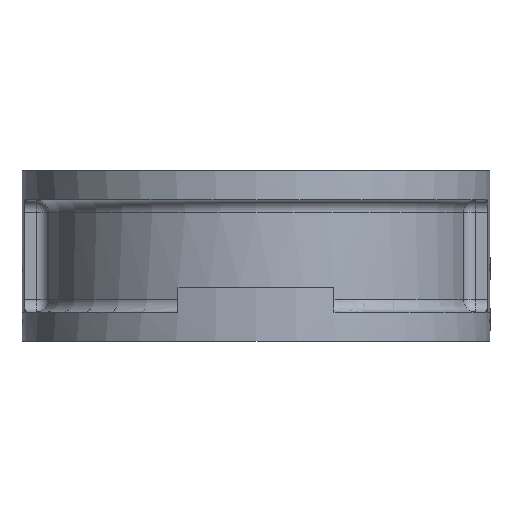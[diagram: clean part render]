
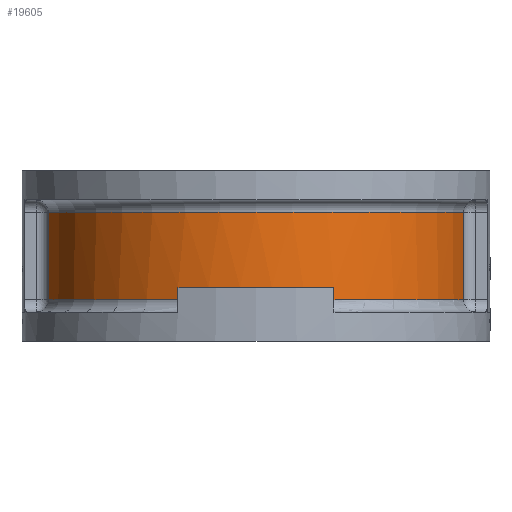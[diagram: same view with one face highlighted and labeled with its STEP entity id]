
A CAD part, front view. The second image highlights one B-rep face of the part: STEP entity #19605.
In plain terms, the highlighted cylindrical face has radius 87 mm (diameter 174 mm), a partial arc.
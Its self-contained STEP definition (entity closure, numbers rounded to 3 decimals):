
#2720=CARTESIAN_POINT('',(0.,0.,-17.));
#2721=DIRECTION('',(0.,0.,-1.));
#2722=DIRECTION('',(0.978,-0.207,0.));
#2723=AXIS2_PLACEMENT_3D('',#2720,#2721,#2722);
#7325=CARTESIAN_POINT('',(0.,0.,-53.));
#7326=DIRECTION('',(0.,0.,1.));
#7327=DIRECTION('',(-0.978,-0.207,0.));
#7328=AXIS2_PLACEMENT_3D('',#7325,#7326,#7327);
#7342=CARTESIAN_POINT('',(0.,0.,-53.));
#7343=DIRECTION('',(0.,0.,1.));
#7344=DIRECTION('',(0.368,-0.93,0.));
#7345=AXIS2_PLACEMENT_3D('',#7342,#7343,#7344);
#7393=DIRECTION('',(0.,0.,1.));
#7394=VECTOR('',#7393,5.);
#7395=CARTESIAN_POINT('',(-32.,-80.901,-53.));
#7396=LINE('',#7395,#7394);
#7397=DIRECTION('',(0.,0.,1.));
#7398=VECTOR('',#7397,36.);
#7399=CARTESIAN_POINT('',(-85.124,-17.967,
-53.));
#7400=LINE('',#7399,#7398);
#7401=DIRECTION('',(0.,0.,-1.));
#7402=VECTOR('',#7401,36.);
#7403=CARTESIAN_POINT('',(85.124,-17.967,
-17.));
#7404=LINE('',#7403,#7402);
#7405=DIRECTION('',(0.,0.,1.));
#7406=VECTOR('',#7405,5.);
#7407=CARTESIAN_POINT('',(32.,-80.901,-53.));
#7408=LINE('',#7407,#7406);
#7431=CARTESIAN_POINT('',(0.,0.,-48.));
#7432=DIRECTION('',(0.,0.,1.));
#7433=DIRECTION('',(-0.368,-0.93,0.));
#7434=AXIS2_PLACEMENT_3D('',#7431,#7432,#7433);
#8741=CARTESIAN_POINT('',(-85.124,-17.967,-17.));
#8742=VERTEX_POINT('',#8741);
#8743=CARTESIAN_POINT('',(-85.124,-17.967,
-53.));
#8744=VERTEX_POINT('',#8743);
#8805=CARTESIAN_POINT('',(85.124,-17.967,-53.));
#8806=VERTEX_POINT('',#8805);
#8807=CARTESIAN_POINT('',(85.124,-17.967,
-17.));
#8808=VERTEX_POINT('',#8807);
#9750=CARTESIAN_POINT('',(-32.,-80.901,-53.));
#9751=CARTESIAN_POINT('',(-32.,-80.901,-48.));
#9752=VERTEX_POINT('',#9750);
#9753=VERTEX_POINT('',#9751);
#9754=CARTESIAN_POINT('',(32.,-80.901,-53.));
#9755=CARTESIAN_POINT('',(32.,-80.901,-48.));
#9756=VERTEX_POINT('',#9754);
#9757=VERTEX_POINT('',#9755);
#19587=CARTESIAN_POINT('',(0.,0.,0.));
#19588=DIRECTION('',(0.,0.,1.));
#19589=DIRECTION('',(-1.,0.,0.));
#19590=AXIS2_PLACEMENT_3D('',#19587,#19588,#19589);
#19591=CYLINDRICAL_SURFACE('',#19590,87.);
#19592=ORIENTED_EDGE('',*,*,#19499,.F.);
#19593=ORIENTED_EDGE('',*,*,#19515,.F.);
#19594=ORIENTED_EDGE('',*,*,#19579,.T.);
#19595=ORIENTED_EDGE('',*,*,#13593,.F.);
#19597=ORIENTED_EDGE('',*,*,#19596,.T.);
#19598=ORIENTED_EDGE('',*,*,#19527,.F.);
#19600=ORIENTED_EDGE('',*,*,#19599,.T.);
#19602=ORIENTED_EDGE('',*,*,#19601,.F.);
#19603=EDGE_LOOP('',(#19592,#19593,#19594,#19595,#19597,#19598,#19600,#19602));
#19604=FACE_OUTER_BOUND('',#19603,.F.);
#2724=CIRCLE('',#2723,87.);
#7329=CIRCLE('',#7328,87.);
#7346=CIRCLE('',#7345,87.);
#7435=CIRCLE('',#7434,87.);
#13593=EDGE_CURVE('',#8808,#8742,#2724,.T.);
#19499=EDGE_CURVE('',#9752,#9753,#7396,.T.);
#19515=EDGE_CURVE('',#8744,#9752,#7329,.T.);
#19527=EDGE_CURVE('',#9756,#8806,#7346,.T.);
#19579=EDGE_CURVE('',#8744,#8742,#7400,.T.);
#19596=EDGE_CURVE('',#8808,#8806,#7404,.T.);
#19599=EDGE_CURVE('',#9756,#9757,#7408,.T.);
#19601=EDGE_CURVE('',#9753,#9757,#7435,.T.);
#19605=ADVANCED_FACE('',(#19604),#19591,.T.);
